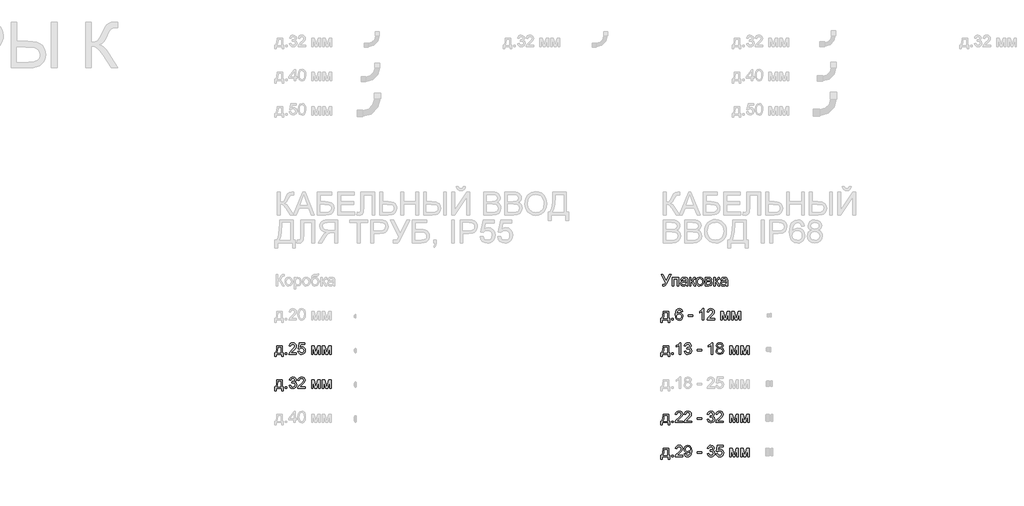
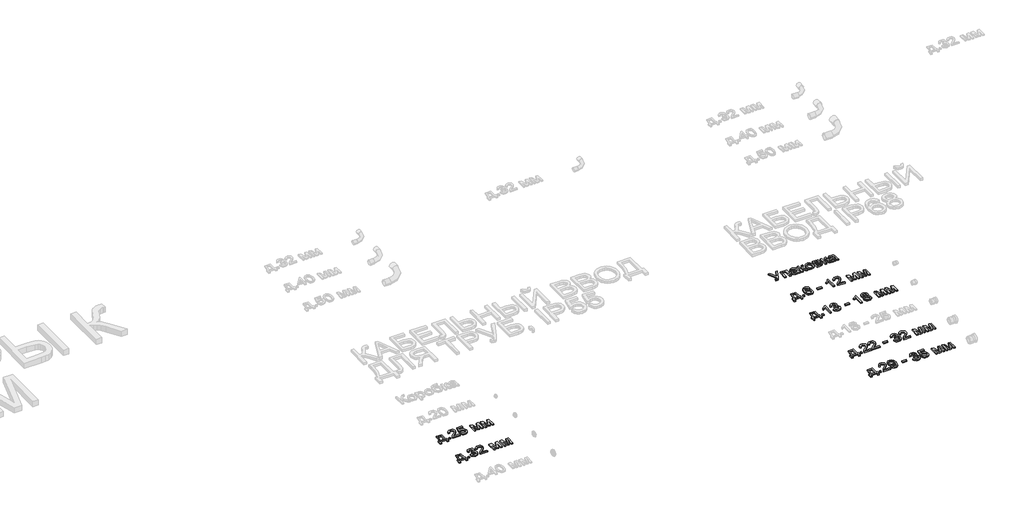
# One storey, part 53 of 98: 7 proxies.
"""IFC4 building model written with IfcOpenShell, lengths in millimetres."""

from ifc_helpers import new_model, si_unit, origin, origin_with_axes, place, context, project, spatial, polyline, outline, extrude, element, save

model = new_model("IFC4")

# Units and contexts
model_context = context("Model", 3, world=origin())
ifc_project = project(units=[si_unit("LENGTHUNIT", "METRE", prefix="MILLI")], contexts=[model_context])

# Site, building, storey
site = spatial("IfcSite", under=ifc_project)
building = spatial("IfcBuilding", under=site)
storey = spatial("IfcBuildingStorey", under=building, Name="Этаж 01", Elevation=0.0)

# Proxies
placement = place(None, origin())
element("IfcBuildingElementProxy", 1, Name="100", ObjectType="100", at=placement, inside=storey, context=model_context, shape_type="SweptSolid", body=[
    extrude(outline(polyline([(-29.8143916, -24585.7395637), (17.2745038, -24585.7395637), (17.2745038, -24646.9551277), (26.6922829, -24646.9551277), (26.6922829, -24679.9173545), (14.1352441, -24679.9173545), (14.1352441, -24659.5121665), (-37.6625408, -24659.5121665), (-37.6625408, -24679.9173545), (-50.2195796, -24679.9173545), (-50.2195796, -24646.9551277), (-42.3714303, -24646.9551277), (-32.6716084, -24623.0060098), (-29.8143916, -24585.7395637)]), holes=[polyline([(-18.8269827, -24598.2966025), (-21.7700386, -24626.905559), (-28.2447617, -24646.9551277), (4.717465, -24646.9551277), (4.717465, -24598.2966025), (-18.8269827, -24598.2966025)])]), origin_with_axes(), (0.0, 0.0, 1.0), 10.0),
    extrude(outline(polyline([(43.9582112, -24659.5121665), (43.9582112, -24646.9551277), (56.51525, -24646.9551277), (56.51525, -24659.5121665), (43.9582112, -24659.5121665)])), origin_with_axes(), (0.0, 0.0, 1.0), 10.0),
    extrude(outline(polyline([(141.2752616, -24646.9551277), (141.2752616, -24659.5121665), (75.3508081, -24659.5121665), (76.6997088, -24650.8546768), (84.3271288, -24637.5250859), (100.0479527, -24622.9692216), (121.728465, -24602.0489988), (127.148593, -24587.8242283), (122.0350333, -24576.3095219), (108.6809169, -24571.6128951), (94.7627147, -24576.1991573), (89.4774767, -24588.8788234), (76.920438, -24587.3091935), (79.9646615, -24575.1629563), (86.5466835, -24566.2908689), (96.3231475, -24560.8646095), (108.950697, -24559.0558563), (121.670217, -24561.0669445), (131.4282869, -24567.1002093), (137.6362956, -24576.1133182), (139.7056318, -24587.0639389), (137.4738144, -24598.9710528), (130.0548608, -24611.2828369), (112.0654312, -24628.4874515), (97.6199315, -24640.5662437), (91.9545488, -24646.9551277), (141.2752616, -24646.9551277)])), origin_with_axes(), (0.0, 0.0, 1.0), 10.0),
    extrude(outline(polyline([(153.8323004, -24632.8284591), (166.3893392, -24631.2588292), (172.7169095, -24644.1960127), (185.838034, -24648.5247575), (194.8388801, -24647.019507), (201.5833834, -24642.5037555), (205.7956322, -24635.4986692), (207.1997152, -24626.5254142), (201.9390026, -24611.6139307), (195.3324552, -24607.5120464), (186.0342377, -24606.1447517), (175.0100406, -24608.3275182), (167.958969, -24613.9929009), (155.4019303, -24612.4232711), (166.3893392, -24560.6254862), (215.0478644, -24560.6254862), (215.0478644, -24573.1825249), (176.5428822, -24573.1825249), (171.1718051, -24600.847251), (180.1419944, -24595.4025974), (189.5413794, -24593.5877129), (201.2737494, -24595.8379245), (211.0134252, -24602.5885591), (217.5709218, -24612.8769922), (219.7567539, -24625.7405993), (217.7885853, -24638.2976381), (211.8840793, -24649.0397923), (200.5778393, -24658.0712953), (185.7889831, -24661.0817963), (173.4557392, -24659.1473501), (163.6302242, -24653.3440117), (156.894918, -24644.3462312), (153.8323004, -24632.8284591)])), origin_with_axes(), (0.0, 0.0, 1.0), 10.0),
    extrude(outline(polyline([(273.1241687, -24585.7395637), (294.7311046, -24585.7395637), (311.3838962, -24644.7968867), (329.3365376, -24585.7395637), (350.0360312, -24585.7395637), (350.0360312, -24659.5121665), (337.4789924, -24659.5121665), (337.4789924, -24600.111487), (319.4282492, -24659.5121665), (302.9471358, -24659.5121665), (285.6812075, -24597.2665329), (285.6812075, -24659.5121665), (273.1241687, -24659.5121665), (273.1241687, -24585.7395637)])), origin_with_axes(), (0.0, 0.0, 1.0), 10.0),
    extrude(outline(polyline([(368.8715893, -24585.7395637), (390.4785252, -24585.7395637), (407.1313168, -24644.7968867), (425.0839582, -24585.7395637), (445.7834518, -24585.7395637), (445.7834518, -24659.5121665), (433.226413, -24659.5121665), (433.226413, -24600.111487), (415.1756698, -24659.5121665), (398.6945564, -24659.5121665), (381.4286281, -24597.2665329), (381.4286281, -24659.5121665), (368.8715893, -24659.5121665), (368.8715893, -24585.7395637)])), origin_with_axes(), (0.0, 0.0, 1.0), 10.0),
])
element("IfcBuildingElementProxy", 2, Name="100", ObjectType="100", at=placement, inside=storey, context=model_context, shape_type="SweptSolid", body=[
    extrude(outline(polyline([(-29.8143916, -24885.7395637), (17.2745038, -24885.7395637), (17.2745038, -24946.9551277), (26.6922829, -24946.9551277), (26.6922829, -24979.9173545), (14.1352441, -24979.9173545), (14.1352441, -24959.5121665), (-37.6625408, -24959.5121665), (-37.6625408, -24979.9173545), (-50.2195796, -24979.9173545), (-50.2195796, -24946.9551277), (-42.3714303, -24946.9551277), (-32.6716084, -24923.0060098), (-29.8143916, -24885.7395637)]), holes=[polyline([(-18.8269827, -24898.2966025), (-21.7700386, -24926.905559), (-28.2447617, -24946.9551277), (4.717465, -24946.9551277), (4.717465, -24898.2966025), (-18.8269827, -24898.2966025)])]), origin_with_axes(), (0.0, 0.0, 1.0), 10.0),
    extrude(outline(polyline([(43.9582112, -24959.5121665), (43.9582112, -24946.9551277), (56.51525, -24946.9551277), (56.51525, -24959.5121665), (43.9582112, -24959.5121665)])), origin_with_axes(), (0.0, 0.0, 1.0), 10.0),
    extrude(outline(polyline([(76.920438, -24932.8284591), (89.4774767, -24931.2588292), (96.405921, -24944.4780556), (109.3676299, -24948.5247575), (117.9760686, -24947.1329373), (124.62247, -24942.9574767), (130.2878527, -24929.1741646), (124.6715209, -24916.1879302), (110.3976995, -24911.049845), (101.5930571, -24912.4232711), (102.9910087, -24899.8662323), (105.0020969, -24900.0133851), (119.2513929, -24896.4081416), (123.9970706, -24891.8341421), (125.5789632, -24885.3226308), (120.992701, -24875.5001815), (109.1714262, -24871.6128951), (97.2029986, -24875.5369697), (91.0471066, -24887.3091935), (78.4900678, -24885.7395637), (82.1872819, -24874.4639805), (88.7662382, -24866.0456142), (97.7670843, -24860.8032958), (108.7299678, -24859.0558563), (123.8744433, -24862.5016843), (134.4694447, -24871.9194634), (138.136002, -24884.5868668), (134.6533857, -24896.1628869), (124.3526899, -24904.47702), (138.0379001, -24913.0609332), (142.8448915, -24929.3948938), (140.4413958, -24941.6331015), (133.2309087, -24951.860221), (122.347733, -24958.7764025), (108.9261715, -24961.0817963), (96.7860657, -24959.1136276), (86.9023028, -24953.2091216), (80.0290408, -24944.1776186), (76.920438, -24932.8284591)])), origin_with_axes(), (0.0, 0.0, 1.0), 10.0),
    extrude(outline(polyline([(218.1871241, -24946.9551277), (218.1871241, -24959.5121665), (152.2626706, -24959.5121665), (153.6115712, -24950.8546768), (161.2389912, -24937.5250859), (176.9598152, -24922.9692216), (198.6403274, -24902.0489988), (204.0604555, -24887.8242283), (198.9468958, -24876.3095219), (185.5927793, -24871.6128951), (171.6745772, -24876.1991573), (166.3893392, -24888.8788234), (153.8323004, -24887.3091935), (156.8765239, -24875.1629563), (163.458546, -24866.2908689), (173.23501, -24860.8646095), (185.8625595, -24859.0558563), (198.5820794, -24861.0669445), (208.3401494, -24867.1002093), (214.548158, -24876.1133182), (216.6174943, -24887.0639389), (214.3856768, -24898.9710528), (206.9667232, -24911.2828369), (188.9772937, -24928.4874515), (174.531794, -24940.5662437), (168.8664113, -24946.9551277), (218.1871241, -24946.9551277)])), origin_with_axes(), (0.0, 0.0, 1.0), 10.0),
    extrude(outline(polyline([(273.1241687, -24885.7395637), (294.7311046, -24885.7395637), (311.3838962, -24944.7968867), (329.3365376, -24885.7395637), (350.0360312, -24885.7395637), (350.0360312, -24959.5121665), (337.4789924, -24959.5121665), (337.4789924, -24900.111487), (319.4282492, -24959.5121665), (302.9471358, -24959.5121665), (285.6812075, -24897.2665329), (285.6812075, -24959.5121665), (273.1241687, -24959.5121665), (273.1241687, -24885.7395637)])), origin_with_axes(), (0.0, 0.0, 1.0), 10.0),
    extrude(outline(polyline([(368.8715893, -24885.7395637), (390.4785252, -24885.7395637), (407.1313168, -24944.7968867), (425.0839582, -24885.7395637), (445.7834518, -24885.7395637), (445.7834518, -24959.5121665), (433.226413, -24959.5121665), (433.226413, -24900.111487), (415.1756698, -24959.5121665), (398.6945564, -24959.5121665), (381.4286281, -24897.2665329), (381.4286281, -24959.5121665), (368.8715893, -24959.5121665), (368.8715893, -24885.7395637)])), origin_with_axes(), (0.0, 0.0, 1.0), 10.0),
])
element("IfcBuildingElementProxy", 3, Name="100", ObjectType="100", at=placement, inside=storey, context=model_context, shape_type="SweptSolid", body=[
    extrude(outline(polyline([(3340.1437998, -23959.0558563), (3354.0497392, -23959.0558563), (3384.0934355, -24018.5546377), (3411.1204994, -23959.0558563), (3424.9038115, -23959.0558563), (3386.7667113, -24037.3166194), (3376.3924391, -24056.544585), (3364.7918935, -24061.0817963), (3353.4856535, -24059.5121665), (3353.4856535, -24048.5247575), (3363.3694164, -24048.5247575), (3370.7025309, -24045.7288544), (3377.496085, -24033.0001373), (3340.1437998, -23959.0558563)])), origin_with_axes(), (0.0, 0.0, 1.0), 10.0),
    extrude(outline(polyline([(3435.1064055, -23985.7395637), (3491.61308, -23985.7395637), (3491.61308, -24059.5121665), (3479.0560412, -24059.5121665), (3479.0560412, -23998.2966025), (3447.6634443, -23998.2966025), (3447.6634443, -24059.5121665), (3435.1064055, -24059.5121665), (3435.1064055, -23985.7395637)])), origin_with_axes(), (0.0, 0.0, 1.0), 10.0),
    extrude(outline(polyline([(3557.5375335, -24050.0943874), (3545.3606394, -24058.6047242), (3531.9084212, -24061.0817963), (3521.4145872, -24059.5918742), (3513.6737369, -24055.122108), (3508.900468, -24048.3346852), (3507.3093784, -24039.8917934), (3509.7128741, -24029.9589795), (3516.0281817, -24022.7484924), (3524.8205614, -24018.6282141), (3535.685343, -24016.7397532), (3557.4639571, -24012.4232711), (3557.5375335, -24009.6273679), (3554.0794427, -24000.3567416), (3540.1980288, -23996.7269726), (3527.4938372, -23999.142731), (3521.436047, -24007.7143815), (3508.8790083, -24006.1447517), (3514.3113991, -23993.8820185), (3525.249757, -23986.6960569), (3541.8167096, -23984.1699338), (3557.0347614, -23986.4017513), (3565.6309374, -23992.0058203), (3569.4814356, -24000.5284199), (3570.0945723, -24011.5158288), (3570.0945723, -24027.1385509), (3570.7322344, -24048.9539532), (3573.233832, -24059.5121665), (3560.6767932, -24059.5121665), (3557.5375335, -24050.0943874)]), holes=[polyline([(3557.5375335, -24024.9803098), (3537.2794983, -24028.8308081), (3526.4760304, -24030.8664218), (3521.5831998, -24034.1773597), (3519.8664172, -24039.0088766), (3523.6065508, -24045.8024308), (3534.581697, -24048.5247575), (3547.2858886, -24045.5203879), (3555.4773943, -24038.2485871), (3557.4639571, -24028.5365025), (3557.5375335, -24024.9803098)])]), origin_with_axes(), (0.0, 0.0, 1.0), 10.0),
    extrude(outline(polyline([(3587.3605006, -23985.7395637), (3599.9175393, -23985.7395637), (3599.9175393, -24017.1321606), (3608.3297743, -24014.8758177), (3615.2214303, -24001.7301677), (3620.9481267, -23990.3871396), (3626.0003728, -23986.6960569), (3635.1851599, -23985.7395637), (3637.5886556, -23985.7395637), (3637.5886556, -23998.3701789), (3634.2041413, -23998.2966025), (3628.0727747, -23999.6209776), (3623.7562926, -24007.8860598), (3618.6917838, -24016.8255923), (3611.5916613, -24021.203388), (3619.5133869, -24026.0900872), (3627.2879598, -24036.3846517), (3640.7279153, -24059.5121665), (3626.4540939, -24059.5121665), (3613.2839185, -24036.875161), (3606.6620426, -24027.2979664), (3599.9175393, -24024.9803098), (3599.9175393, -24059.5121665), (3587.3605006, -24059.5121665), (3587.3605006, -23985.7395637)])), origin_with_axes(), (0.0, 0.0, 1.0), 10.0),
    extrude(outline(polyline([(3645.4368049, -24022.6258651), (3648.1530003, -24004.8387706), (3656.3015865, -23992.3369141), (3666.3692904, -23986.2116789), (3678.4235571, -23984.1699338), (3691.6151923, -23986.656203), (3702.1519458, -23994.1150104), (3709.0589303, -24005.957745), (3711.3612584, -24021.5957955), (3707.290031, -24043.9384953), (3695.431968, -24056.5813732), (3678.4235571, -24061.0817963), (3665.0725064, -24058.6047242), (3654.5480156, -24051.1735079), (3647.7146076, -24039.082453), (3645.4368049, -24022.6258651)]), holes=[polyline([(3657.9938436, -24022.6013396), (3659.4469775, -24033.9658276), (3663.8063792, -24042.0622972), (3670.3669414, -24046.9091424), (3678.4235571, -24048.5247575), (3686.4433846, -24046.8999454), (3692.9916841, -24042.025509), (3697.3510858, -24033.8217405), (3698.8042196, -24022.2089321), (3697.3418887, -24011.175538), (3692.9548959, -24003.189433), (3686.3973993, -23998.3425877), (3678.4235571, -23996.7269726), (3670.3669414, -23998.3364563), (3663.8063792, -24003.1649075), (3659.4469775, -24011.242983), (3657.9938436, -24022.6013396)])]), origin_with_axes(), (0.0, 0.0, 1.0), 10.0),
    extrude(outline(polyline([(3725.487927, -23985.7395637), (3753.1526531, -23985.7395637), (3768.321654, -23987.4195581), (3776.8565163, -23993.5754502), (3780.4249716, -24004.3053417), (3778.2667306, -24013.024145), (3771.767482, -24019.2413507), (3780.2042424, -24026.0471676), (3783.5642313, -24037.8807051), (3781.4366471, -24047.4517684), (3776.3782697, -24054.1901403), (3768.3707049, -24058.1816599), (3757.3955587, -24059.5121665), (3725.487927, -24059.5121665), (3725.487927, -23985.7395637)]), holes=[polyline([(3738.0449658, -24013.9929009), (3750.4548518, -24013.9929009), (3760.694234, -24013.3552388), (3765.6729036, -24010.8045903), (3767.8679329, -24006.1938026), (3764.0174346, -24000.0379106), (3750.8472592, -23998.2966025), (3738.0449658, -23998.2966025), (3738.0449658, -24013.9929009)]), polyline([(3738.0449658, -24046.9551277), (3753.4469587, -24046.9551277), (3767.1076434, -24044.6865221), (3771.0071926, -24036.8506356), (3768.8612143, -24030.8051081), (3763.2694079, -24027.2857037), (3752.2206853, -24026.5499397), (3738.0449658, -24026.5499397), (3738.0449658, -24046.9551277)])]), origin_with_axes(), (0.0, 0.0, 1.0), 10.0),
    extrude(outline(polyline([(3799.2605298, -23985.7395637), (3811.8175686, -23985.7395637), (3811.8175686, -24017.1321606), (3820.2298035, -24014.8758177), (3827.1214596, -24001.7301677), (3832.8481559, -23990.3871396), (3837.900402, -23986.6960569), (3847.0851892, -23985.7395637), (3849.4886849, -23985.7395637), (3849.4886849, -23998.3701789), (3846.1041705, -23998.2966025), (3839.9728039, -23999.6209776), (3835.6563218, -24007.8860598), (3830.591813, -24016.8255923), (3823.4916905, -24021.203388), (3831.4134162, -24026.0900872), (3839.187989, -24036.3846517), (3852.6279446, -24059.5121665), (3838.3541231, -24059.5121665), (3825.1839477, -24036.875161), (3818.5620718, -24027.2979664), (3811.8175686, -24024.9803098), (3811.8175686, -24059.5121665), (3799.2605298, -24059.5121665), (3799.2605298, -23985.7395637)])), origin_with_axes(), (0.0, 0.0, 1.0), 10.0),
    extrude(outline(polyline([(3907.5649892, -24050.0943874), (3895.3880951, -24058.6047242), (3881.9358768, -24061.0817963), (3871.4420429, -24059.5918742), (3863.7011926, -24055.122108), (3858.9279237, -24048.3346852), (3857.3368341, -24039.8917934), (3859.7403298, -24029.9589795), (3866.0556374, -24022.7484924), (3874.8480171, -24018.6282141), (3885.7127987, -24016.7397532), (3907.4914128, -24012.4232711), (3907.5649892, -24009.6273679), (3904.1068984, -24000.3567416), (3890.2254845, -23996.7269726), (3877.5212929, -23999.142731), (3871.4635027, -24007.7143815), (3858.9064639, -24006.1447517), (3864.3388547, -23993.8820185), (3875.2772127, -23986.6960569), (3891.8441652, -23984.1699338), (3907.0622171, -23986.4017513), (3915.6583931, -23992.0058203), (3919.5088913, -24000.5284199), (3920.1220279, -24011.5158288), (3920.1220279, -24027.1385509), (3920.7596901, -24048.9539532), (3923.2612876, -24059.5121665), (3910.7042489, -24059.5121665), (3907.5649892, -24050.0943874)]), holes=[polyline([(3907.5649892, -24024.9803098), (3887.306954, -24028.8308081), (3876.503486, -24030.8664218), (3871.6106555, -24034.1773597), (3869.8938729, -24039.0088766), (3873.6340065, -24045.8024308), (3884.6091527, -24048.5247575), (3897.3133442, -24045.5203879), (3905.50485, -24038.2485871), (3907.4914128, -24028.5365025), (3907.5649892, -24024.9803098)])]), origin_with_axes(), (0.0, 0.0, 1.0), 10.0),
])
element("IfcBuildingElementProxy", 4, Name="100", ObjectType="100", at=placement, inside=storey, context=model_context, shape_type="SweptSolid", body=[
    extrude(outline(polyline([(3356.6249132, -24285.7395637), (3403.7138086, -24285.7395637), (3403.7138086, -24346.9551277), (3413.1315876, -24346.9551277), (3413.1315876, -24379.9173545), (3400.5745489, -24379.9173545), (3400.5745489, -24359.5121665), (3348.776764, -24359.5121665), (3348.776764, -24379.9173545), (3336.2197252, -24379.9173545), (3336.2197252, -24346.9551277), (3344.0678744, -24346.9551277), (3353.7676964, -24323.0060098), (3356.6249132, -24285.7395637)]), holes=[polyline([(3367.6123221, -24298.2966025), (3364.6692662, -24326.905559), (3358.194543, -24346.9551277), (3391.1567698, -24346.9551277), (3391.1567698, -24298.2966025), (3367.6123221, -24298.2966025)])]), origin_with_axes(), (0.0, 0.0, 1.0), 10.0),
    extrude(outline(polyline([(3430.397516, -24359.5121665), (3430.397516, -24346.9551277), (3442.9545547, -24346.9551277), (3442.9545547, -24359.5121665), (3430.397516, -24359.5121665)])), origin_with_axes(), (0.0, 0.0, 1.0), 10.0),
    extrude(outline(polyline([(3527.7145664, -24285.7395637), (3515.1575276, -24287.3091935), (3510.3995872, -24276.8368194), (3497.8180229, -24271.6128951), (3486.4872575, -24274.6540529), (3477.915607, -24286.0706575), (3474.3471516, -24308.4501455), (3485.4203997, -24298.4314925), (3499.1423981, -24295.1573428), (3510.7429437, -24297.3952916), (3520.4795538, -24304.109138), (3527.0830357, -24314.3669143), (3529.2841963, -24327.2366527), (3525.1393924, -24344.5638947), (3513.7350506, -24356.8266279), (3497.2784627, -24361.0817963), (3483.0322324, -24358.2613677), (3471.6861385, -24349.8000818), (3464.2641193, -24334.8640728), (3461.7901129, -24312.6194748), (3464.5369651, -24287.6096305), (3472.7775218, -24270.5092491), (3484.0285795, -24261.9192045), (3498.6028379, -24259.0558563), (3509.6209036, -24260.8278213), (3518.4439401, -24266.1437161), (3524.6243577, -24274.5866079), (3527.7145664, -24285.7395637)]), holes=[polyline([(3474.3471516, -24327.040449), (3477.2534194, -24337.9174933), (3484.9789413, -24345.8146935), (3496.297444, -24348.5247575), (3504.583986, -24347.1206746), (3511.098563, -24342.9084257), (3515.3200089, -24336.2865498), (3516.7271575, -24327.6535857), (3515.338403, -24319.3670437), (3511.1721394, -24313.0486705), (3504.5471978, -24309.0479538), (3495.7824092, -24307.7143815), (3480.5888828, -24313.0486705), (3475.9075844, -24319.2137596), (3474.3471516, -24327.040449)])]), origin_with_axes(), (0.0, 0.0, 1.0), 10.0),
    extrude(outline(polyline([(3576.3730916, -24329.6891994), (3576.3730916, -24317.1321606), (3615.6138378, -24317.1321606), (3615.6138378, -24329.6891994), (3576.3730916, -24329.6891994)])), origin_with_axes(), (0.0, 0.0, 1.0), 10.0),
    extrude(outline(polyline([(3712.9308883, -24359.5121665), (3700.3738495, -24359.5121665), (3700.3738495, -24281.2268779), (3688.4789983, -24289.7004265), (3675.2597719, -24296.0402596), (3675.2597719, -24284.1699338), (3693.6661344, -24272.4222355), (3704.8374844, -24259.0558563), (3712.9308883, -24259.0558563), (3712.9308883, -24359.5121665)])), origin_with_axes(), (0.0, 0.0, 1.0), 10.0),
    extrude(outline(polyline([(3807.108679, -24346.9551277), (3807.108679, -24359.5121665), (3741.1842255, -24359.5121665), (3742.5331261, -24350.8546768), (3750.1605462, -24337.5250859), (3765.8813701, -24322.9692216), (3787.5618823, -24302.0489988), (3792.9820104, -24287.8242283), (3787.8684507, -24276.3095219), (3774.5143342, -24271.6128951), (3760.5961321, -24276.1991573), (3755.3108941, -24288.8788234), (3742.7538553, -24287.3091935), (3745.7980788, -24275.1629563), (3752.3801009, -24266.2908689), (3762.1565649, -24260.8646095), (3774.7841144, -24259.0558563), (3787.5036344, -24261.0669445), (3797.2617043, -24267.1002093), (3803.4697129, -24276.1133182), (3805.5390492, -24287.0639389), (3803.3072317, -24298.9710528), (3795.8882782, -24311.2828369), (3777.8988486, -24328.4874515), (3763.4533489, -24340.5662437), (3757.7879662, -24346.9551277), (3807.108679, -24346.9551277)])), origin_with_axes(), (0.0, 0.0, 1.0), 10.0),
    extrude(outline(polyline([(3862.0457236, -24285.7395637), (3883.6526595, -24285.7395637), (3900.3054511, -24344.7968867), (3918.2580925, -24285.7395637), (3938.9575861, -24285.7395637), (3938.9575861, -24359.5121665), (3926.4005473, -24359.5121665), (3926.4005473, -24300.111487), (3908.3498041, -24359.5121665), (3891.8686907, -24359.5121665), (3874.6027624, -24297.2665329), (3874.6027624, -24359.5121665), (3862.0457236, -24359.5121665), (3862.0457236, -24285.7395637)])), origin_with_axes(), (0.0, 0.0, 1.0), 10.0),
    extrude(outline(polyline([(3957.7931442, -24285.7395637), (3979.4000801, -24285.7395637), (3996.0528717, -24344.7968867), (4014.0055131, -24285.7395637), (4034.7050067, -24285.7395637), (4034.7050067, -24359.5121665), (4022.1479679, -24359.5121665), (4022.1479679, -24300.111487), (4004.0972247, -24359.5121665), (3987.6161113, -24359.5121665), (3970.350183, -24297.2665329), (3970.350183, -24359.5121665), (3957.7931442, -24359.5121665), (3957.7931442, -24285.7395637)])), origin_with_axes(), (0.0, 0.0, 1.0), 10.0),
])
element("IfcBuildingElementProxy", 5, Name="100", ObjectType="100", at=placement, inside=storey, context=model_context, shape_type="SweptSolid", body=[
    extrude(outline(polyline([(3356.6249132, -24585.7395637), (3403.7138086, -24585.7395637), (3403.7138086, -24646.9551277), (3413.1315876, -24646.9551277), (3413.1315876, -24679.9173545), (3400.5745489, -24679.9173545), (3400.5745489, -24659.5121665), (3348.776764, -24659.5121665), (3348.776764, -24679.9173545), (3336.2197252, -24679.9173545), (3336.2197252, -24646.9551277), (3344.0678744, -24646.9551277), (3353.7676964, -24623.0060098), (3356.6249132, -24585.7395637)]), holes=[polyline([(3367.6123221, -24598.2966025), (3364.6692662, -24626.905559), (3358.194543, -24646.9551277), (3391.1567698, -24646.9551277), (3391.1567698, -24598.2966025), (3367.6123221, -24598.2966025)])]), origin_with_axes(), (0.0, 0.0, 1.0), 10.0),
    extrude(outline(polyline([(3430.397516, -24659.5121665), (3430.397516, -24646.9551277), (3442.9545547, -24646.9551277), (3442.9545547, -24659.5121665), (3430.397516, -24659.5121665)])), origin_with_axes(), (0.0, 0.0, 1.0), 10.0),
    extrude(outline(polyline([(3510.4486381, -24659.5121665), (3497.8915993, -24659.5121665), (3497.8915993, -24581.2268779), (3485.9967482, -24589.7004265), (3472.7775218, -24596.0402596), (3472.7775218, -24584.1699338), (3491.1838843, -24572.4222355), (3502.3552342, -24559.0558563), (3510.4486381, -24559.0558563), (3510.4486381, -24659.5121665)])), origin_with_axes(), (0.0, 0.0, 1.0), 10.0),
    extrude(outline(polyline([(3540.2716052, -24632.8284591), (3552.828644, -24631.2588292), (3559.7570882, -24644.4780556), (3572.7187972, -24648.5247575), (3581.3272358, -24647.1329373), (3587.9736372, -24642.9574767), (3593.6390199, -24629.1741646), (3588.0226882, -24616.1879302), (3573.7488667, -24611.049845), (3564.9442243, -24612.4232711), (3566.3421759, -24599.8662323), (3568.3532641, -24600.0133851), (3582.6025601, -24596.4081416), (3587.3482378, -24591.8341421), (3588.9301304, -24585.3226308), (3584.3438682, -24575.5001815), (3572.5225934, -24571.6128951), (3560.5541658, -24575.5369697), (3554.3982738, -24587.3091935), (3541.841235, -24585.7395637), (3545.5384491, -24574.4639805), (3552.1174054, -24566.0456142), (3561.1182516, -24560.8032958), (3572.081135, -24559.0558563), (3587.2256105, -24562.5016843), (3597.820612, -24571.9194634), (3601.4871692, -24584.5868668), (3598.004553, -24596.1628869), (3587.7038571, -24604.47702), (3601.3890673, -24613.0609332), (3606.1960587, -24629.3948938), (3603.792563, -24641.6331015), (3596.5820759, -24651.860221), (3585.6989002, -24658.7764025), (3572.2773388, -24661.0817963), (3560.1372329, -24659.1136276), (3550.25347, -24653.2091216), (3543.380208, -24644.1776186), (3540.2716052, -24632.8284591)])), origin_with_axes(), (0.0, 0.0, 1.0), 10.0),
    extrude(outline(polyline([(3653.2849541, -24629.6891994), (3653.2849541, -24617.1321606), (3692.5257003, -24617.1321606), (3692.5257003, -24629.6891994), (3653.2849541, -24629.6891994)])), origin_with_axes(), (0.0, 0.0, 1.0), 10.0),
    extrude(outline(polyline([(3789.8427507, -24659.5121665), (3777.2857119, -24659.5121665), (3777.2857119, -24581.2268779), (3765.3908608, -24589.7004265), (3752.1716344, -24596.0402596), (3752.1716344, -24584.1699338), (3770.5779969, -24572.4222355), (3781.7493468, -24559.0558563), (3789.8427507, -24559.0558563), (3789.8427507, -24659.5121665)])), origin_with_axes(), (0.0, 0.0, 1.0), 10.0),
    extrude(outline(polyline([(3837.9617157, -24604.1827144), (3826.5205856, -24596.3836161), (3822.8049775, -24584.2435102), (3824.8283285, -24574.4271923), (3830.8983814, -24566.3153943), (3840.3345545, -24560.8707408), (3852.4562663, -24559.0558563), (3864.6515544, -24560.9136604), (3874.2103549, -24566.4870726), (3880.3907725, -24574.7276293), (3882.4509116, -24584.5868668), (3878.7843544, -24596.4204043), (3867.6620554, -24604.1827144), (3881.0161718, -24614.0296891), (3885.5901713, -24630.2778106), (3883.3215657, -24642.2830264), (3876.5157488, -24652.2035775), (3866.0065864, -24658.8622416), (3852.6279446, -24661.0817963), (3839.2493027, -24658.8530446), (3828.7401403, -24652.1667893), (3821.9343234, -24642.151202), (3819.6657178, -24629.934454), (3824.4236583, -24613.3061879), (3837.9617157, -24604.1827144)]), holes=[polyline([(3835.3620162, -24584.6113922), (3839.8133884, -24594.4706297), (3852.7750974, -24598.2966025), (3865.4792889, -24594.4951552), (3869.8938729, -24585.175478), (3865.3321361, -24575.524707), (3852.6279446, -24571.6128951), (3839.8869648, -24575.4388678), (3835.3620162, -24584.6113922)]), polyline([(3832.2227566, -24629.4929957), (3834.3196839, -24638.9475629), (3841.7386375, -24646.02316), (3852.7260464, -24648.5247575), (3861.2731714, -24647.2095794), (3867.6865809, -24643.264045), (3873.0331326, -24629.8854031), (3867.5149026, -24616.2492438), (3860.9543404, -24612.2025419), (3852.3091135, -24610.8536412), (3843.8815501, -24612.1841478), (3837.53252, -24616.1756674), (3832.2227566, -24629.4929957)])]), origin_with_axes(), (0.0, 0.0, 1.0), 10.0),
    extrude(outline(polyline([(3938.9575861, -24585.7395637), (3960.5645219, -24585.7395637), (3977.2173136, -24644.7968867), (3995.169955, -24585.7395637), (4015.8694485, -24585.7395637), (4015.8694485, -24659.5121665), (4003.3124098, -24659.5121665), (4003.3124098, -24600.111487), (3985.2616665, -24659.5121665), (3968.7805532, -24659.5121665), (3951.5146249, -24597.2665329), (3951.5146249, -24659.5121665), (3938.9575861, -24659.5121665), (3938.9575861, -24585.7395637)])), origin_with_axes(), (0.0, 0.0, 1.0), 10.0),
    extrude(outline(polyline([(4034.7050067, -24585.7395637), (4056.3119425, -24585.7395637), (4072.9647342, -24644.7968867), (4090.9173756, -24585.7395637), (4111.6168692, -24585.7395637), (4111.6168692, -24659.5121665), (4099.0598304, -24659.5121665), (4099.0598304, -24600.111487), (4081.0090872, -24659.5121665), (4064.5279738, -24659.5121665), (4047.2620455, -24597.2665329), (4047.2620455, -24659.5121665), (4034.7050067, -24659.5121665), (4034.7050067, -24585.7395637)])), origin_with_axes(), (0.0, 0.0, 1.0), 10.0),
])
element("IfcBuildingElementProxy", 6, Name="100", ObjectType="100", at=placement, inside=storey, context=model_context, shape_type="SweptSolid", body=[
    extrude(outline(polyline([(3356.6249132, -25485.7395637), (3403.7138086, -25485.7395637), (3403.7138086, -25546.9551277), (3413.1315876, -25546.9551277), (3413.1315876, -25579.9173545), (3400.5745489, -25579.9173545), (3400.5745489, -25559.5121665), (3348.776764, -25559.5121665), (3348.776764, -25579.9173545), (3336.2197252, -25579.9173545), (3336.2197252, -25546.9551277), (3344.0678744, -25546.9551277), (3353.7676964, -25523.0060098), (3356.6249132, -25485.7395637)]), holes=[polyline([(3367.6123221, -25498.2966025), (3364.6692662, -25526.905559), (3358.194543, -25546.9551277), (3391.1567698, -25546.9551277), (3391.1567698, -25498.2966025), (3367.6123221, -25498.2966025)])]), origin_with_axes(), (0.0, 0.0, 1.0), 10.0),
    extrude(outline(polyline([(3430.397516, -25559.5121665), (3430.397516, -25546.9551277), (3442.9545547, -25546.9551277), (3442.9545547, -25559.5121665), (3430.397516, -25559.5121665)])), origin_with_axes(), (0.0, 0.0, 1.0), 10.0),
    extrude(outline(polyline([(3527.7145664, -25546.9551277), (3527.7145664, -25559.5121665), (3461.7901129, -25559.5121665), (3463.1390135, -25550.8546768), (3470.7664336, -25537.5250859), (3486.4872575, -25522.9692216), (3508.1677697, -25502.0489988), (3513.5878978, -25487.8242283), (3508.4743381, -25476.3095219), (3495.1202216, -25471.6128951), (3481.2020195, -25476.1991573), (3475.9167815, -25488.8788234), (3463.3597427, -25487.3091935), (3466.4039662, -25475.1629563), (3472.9859883, -25466.2908689), (3482.7624523, -25460.8646095), (3495.3900018, -25459.0558563), (3508.1095218, -25461.0669445), (3517.8675917, -25467.1002093), (3524.0756003, -25476.1133182), (3526.1449366, -25487.0639389), (3523.9131191, -25498.9710528), (3516.4941656, -25511.2828369), (3498.504736, -25528.4874515), (3484.0592363, -25540.5662437), (3478.3938536, -25546.9551277), (3527.7145664, -25546.9551277)])), origin_with_axes(), (0.0, 0.0, 1.0), 10.0),
    extrude(outline(polyline([(3541.841235, -25534.3980889), (3554.3982738, -25532.8284591), (3560.0391311, -25544.8091494), (3570.7322344, -25548.5247575), (3580.8980402, -25546.1335246), (3587.7896962, -25539.7446406), (3591.8977118, -25528.8308081), (3593.7125963, -25514.2626811), (3593.6390199, -25511.8101344), (3583.5958415, -25521.3260154), (3569.8247921, -25524.9803098), (3558.374465, -25522.7484924), (3548.8432557, -25516.0530401), (3542.4145178, -25505.7094247), (3540.2716052, -25492.5331179), (3542.518751, -25478.921484), (3549.2601886, -25468.2529062), (3559.3861405, -25461.3551188), (3571.7868294, -25459.0558563), (3589.6781571, -25464.3043061), (3601.9899412, -25479.2648406), (3606.1960587, -25507.371025), (3602.002204, -25537.8684424), (3596.7874767, -25547.8595043), (3589.5310043, -25555.1466334), (3580.5454866, -25559.5980056), (3570.1436232, -25561.0817963), (3559.4076003, -25559.3312911), (3550.8420812, -25554.0797757), (3544.851736, -25545.6583437), (3541.841235, -25534.3980889)]), holes=[polyline([(3593.6390199, -25492.2388123), (3592.2839879, -25483.7284755), (3588.2188919, -25477.1801759), (3581.9097157, -25473.0047153), (3573.8224431, -25471.6128951), (3565.4347337, -25473.1120142), (3558.7147559, -25477.6093716), (3554.3001719, -25484.4918306), (3552.828644, -25493.1462545), (3554.2204642, -25500.9054989), (3558.3959248, -25507.0644567), (3564.9503557, -25511.0835675), (3573.4790866, -25512.4232711), (3587.9613745, -25507.0644567), (3592.2196086, -25500.6786384), (3593.6390199, -25492.2388123)])]), origin_with_axes(), (0.0, 0.0, 1.0), 10.0),
    extrude(outline(polyline([(3653.2849541, -25529.6891994), (3653.2849541, -25517.1321606), (3692.5257003, -25517.1321606), (3692.5257003, -25529.6891994), (3653.2849541, -25529.6891994)])), origin_with_axes(), (0.0, 0.0, 1.0), 10.0),
    extrude(outline(polyline([(3742.7538553, -25532.8284591), (3755.3108941, -25531.2588292), (3762.2393383, -25544.4780556), (3775.2010473, -25548.5247575), (3783.809486, -25547.1329373), (3790.4558874, -25542.9574767), (3796.1212701, -25529.1741646), (3790.5049383, -25516.1879302), (3776.2311169, -25511.049845), (3767.4264745, -25512.4232711), (3768.8244261, -25499.8662323), (3770.8355143, -25500.0133851), (3785.0848102, -25496.4081416), (3789.830488, -25491.8341421), (3791.4123806, -25485.3226308), (3786.8261183, -25475.5001815), (3775.0048436, -25471.6128951), (3763.036416, -25475.5369697), (3756.8805239, -25487.3091935), (3744.3234852, -25485.7395637), (3748.0206992, -25474.4639805), (3754.5996556, -25466.0456142), (3763.6005017, -25460.8032958), (3774.5633852, -25459.0558563), (3789.7078606, -25462.5016843), (3800.3028621, -25471.9194634), (3803.9694193, -25484.5868668), (3800.4868031, -25496.1628869), (3790.1861072, -25504.47702), (3803.8713175, -25513.0609332), (3808.6783089, -25529.3948938), (3806.2748132, -25541.6331015), (3799.0643261, -25551.860221), (3788.1811504, -25558.7764025), (3774.7595889, -25561.0817963), (3762.6194831, -25559.1136276), (3752.7357201, -25553.2091216), (3745.8624582, -25544.1776186), (3742.7538553, -25532.8284591)])), origin_with_axes(), (0.0, 0.0, 1.0), 10.0),
    extrude(outline(polyline([(3819.6657178, -25532.8284591), (3832.2227566, -25531.2588292), (3838.5503269, -25544.1960127), (3851.6714514, -25548.5247575), (3860.6722975, -25547.019507), (3867.4168008, -25542.5037555), (3871.6290496, -25535.4986692), (3873.0331326, -25526.5254142), (3867.77242, -25511.6139307), (3861.1658725, -25507.5120464), (3851.8676551, -25506.1447517), (3840.843458, -25508.3275182), (3833.7923864, -25513.9929009), (3821.2353476, -25512.4232711), (3832.2227566, -25460.6254862), (3880.8812818, -25460.6254862), (3880.8812818, -25473.1825249), (3842.3762996, -25473.1825249), (3837.0052225, -25500.847251), (3845.9754118, -25495.4025974), (3855.3747968, -25493.5877129), (3867.1071667, -25495.8379245), (3876.8468426, -25502.5885591), (3883.4043391, -25512.8769922), (3885.5901713, -25525.7405993), (3883.6220026, -25538.2976381), (3877.7174966, -25549.0397923), (3866.4112566, -25558.0712953), (3851.6224004, -25561.0817963), (3839.2891565, -25559.1473501), (3829.4636416, -25553.3440117), (3822.7283354, -25544.3462312), (3819.6657178, -25532.8284591)])), origin_with_axes(), (0.0, 0.0, 1.0), 10.0),
    extrude(outline(polyline([(3938.9575861, -25485.7395637), (3960.5645219, -25485.7395637), (3977.2173136, -25544.7968867), (3995.169955, -25485.7395637), (4015.8694485, -25485.7395637), (4015.8694485, -25559.5121665), (4003.3124098, -25559.5121665), (4003.3124098, -25500.111487), (3985.2616665, -25559.5121665), (3968.7805532, -25559.5121665), (3951.5146249, -25497.2665329), (3951.5146249, -25559.5121665), (3938.9575861, -25559.5121665), (3938.9575861, -25485.7395637)])), origin_with_axes(), (0.0, 0.0, 1.0), 10.0),
    extrude(outline(polyline([(4034.7050067, -25485.7395637), (4056.3119425, -25485.7395637), (4072.9647342, -25544.7968867), (4090.9173756, -25485.7395637), (4111.6168692, -25485.7395637), (4111.6168692, -25559.5121665), (4099.0598304, -25559.5121665), (4099.0598304, -25500.111487), (4081.0090872, -25559.5121665), (4064.5279738, -25559.5121665), (4047.2620455, -25497.2665329), (4047.2620455, -25559.5121665), (4034.7050067, -25559.5121665), (4034.7050067, -25485.7395637)])), origin_with_axes(), (0.0, 0.0, 1.0), 10.0),
])
element("IfcBuildingElementProxy", 7, Name="100", ObjectType="100", at=placement, inside=storey, context=model_context, shape_type="SweptSolid", body=[
    extrude(outline(polyline([(3356.6249132, -25185.7395637), (3403.7138086, -25185.7395637), (3403.7138086, -25246.9551277), (3413.1315876, -25246.9551277), (3413.1315876, -25279.9173545), (3400.5745489, -25279.9173545), (3400.5745489, -25259.5121665), (3348.776764, -25259.5121665), (3348.776764, -25279.9173545), (3336.2197252, -25279.9173545), (3336.2197252, -25246.9551277), (3344.0678744, -25246.9551277), (3353.7676964, -25223.0060098), (3356.6249132, -25185.7395637)]), holes=[polyline([(3367.6123221, -25198.2966025), (3364.6692662, -25226.905559), (3358.194543, -25246.9551277), (3391.1567698, -25246.9551277), (3391.1567698, -25198.2966025), (3367.6123221, -25198.2966025)])]), origin_with_axes(), (0.0, 0.0, 1.0), 10.0),
    extrude(outline(polyline([(3430.397516, -25259.5121665), (3430.397516, -25246.9551277), (3442.9545547, -25246.9551277), (3442.9545547, -25259.5121665), (3430.397516, -25259.5121665)])), origin_with_axes(), (0.0, 0.0, 1.0), 10.0),
    extrude(outline(polyline([(3527.7145664, -25246.9551277), (3527.7145664, -25259.5121665), (3461.7901129, -25259.5121665), (3463.1390135, -25250.8546768), (3470.7664336, -25237.5250859), (3486.4872575, -25222.9692216), (3508.1677697, -25202.0489988), (3513.5878978, -25187.8242283), (3508.4743381, -25176.3095219), (3495.1202216, -25171.6128951), (3481.2020195, -25176.1991573), (3475.9167815, -25188.8788234), (3463.3597427, -25187.3091935), (3466.4039662, -25175.1629563), (3472.9859883, -25166.2908689), (3482.7624523, -25160.8646095), (3495.3900018, -25159.0558563), (3508.1095218, -25161.0669445), (3517.8675917, -25167.1002093), (3524.0756003, -25176.1133182), (3526.1449366, -25187.0639389), (3523.9131191, -25198.9710528), (3516.4941656, -25211.2828369), (3498.504736, -25228.4874515), (3484.0592363, -25240.5662437), (3478.3938536, -25246.9551277), (3527.7145664, -25246.9551277)])), origin_with_axes(), (0.0, 0.0, 1.0), 10.0),
    extrude(outline(polyline([(3604.6264289, -25246.9551277), (3604.6264289, -25259.5121665), (3538.7019753, -25259.5121665), (3540.050876, -25250.8546768), (3547.678296, -25237.5250859), (3563.3991199, -25222.9692216), (3585.0796322, -25202.0489988), (3590.4997603, -25187.8242283), (3585.3862005, -25176.3095219), (3572.0320841, -25171.6128951), (3558.1138819, -25176.1991573), (3552.828644, -25188.8788234), (3540.2716052, -25187.3091935), (3543.3158287, -25175.1629563), (3549.8978507, -25166.2908689), (3559.6743147, -25160.8646095), (3572.3018642, -25159.0558563), (3585.0213842, -25161.0669445), (3594.7794541, -25167.1002093), (3600.9874628, -25176.1133182), (3603.056799, -25187.0639389), (3600.8249816, -25198.9710528), (3593.406028, -25211.2828369), (3575.4165985, -25228.4874515), (3560.9710988, -25240.5662437), (3555.3057161, -25246.9551277), (3604.6264289, -25246.9551277)])), origin_with_axes(), (0.0, 0.0, 1.0), 10.0),
    extrude(outline(polyline([(3653.2849541, -25229.6891994), (3653.2849541, -25217.1321606), (3692.5257003, -25217.1321606), (3692.5257003, -25229.6891994), (3653.2849541, -25229.6891994)])), origin_with_axes(), (0.0, 0.0, 1.0), 10.0),
    extrude(outline(polyline([(3742.7538553, -25232.8284591), (3755.3108941, -25231.2588292), (3762.2393383, -25244.4780556), (3775.2010473, -25248.5247575), (3783.809486, -25247.1329373), (3790.4558874, -25242.9574767), (3796.1212701, -25229.1741646), (3790.5049383, -25216.1879302), (3776.2311169, -25211.049845), (3767.4264745, -25212.4232711), (3768.8244261, -25199.8662323), (3770.8355143, -25200.0133851), (3785.0848102, -25196.4081416), (3789.830488, -25191.8341421), (3791.4123806, -25185.3226308), (3786.8261183, -25175.5001815), (3775.0048436, -25171.6128951), (3763.036416, -25175.5369697), (3756.8805239, -25187.3091935), (3744.3234852, -25185.7395637), (3748.0206992, -25174.4639805), (3754.5996556, -25166.0456142), (3763.6005017, -25160.8032958), (3774.5633852, -25159.0558563), (3789.7078606, -25162.5016843), (3800.3028621, -25171.9194634), (3803.9694193, -25184.5868668), (3800.4868031, -25196.1628869), (3790.1861072, -25204.47702), (3803.8713175, -25213.0609332), (3808.6783089, -25229.3948938), (3806.2748132, -25241.6331015), (3799.0643261, -25251.860221), (3788.1811504, -25258.7764025), (3774.7595889, -25261.0817963), (3762.6194831, -25259.1136276), (3752.7357201, -25253.2091216), (3745.8624582, -25244.1776186), (3742.7538553, -25232.8284591)])), origin_with_axes(), (0.0, 0.0, 1.0), 10.0),
    extrude(outline(polyline([(3884.0205415, -25246.9551277), (3884.0205415, -25259.5121665), (3818.0960879, -25259.5121665), (3819.4449886, -25250.8546768), (3827.0724086, -25237.5250859), (3842.7932325, -25222.9692216), (3864.4737448, -25202.0489988), (3869.8938729, -25187.8242283), (3864.7803131, -25176.3095219), (3851.4261967, -25171.6128951), (3837.5079946, -25176.1991573), (3832.2227566, -25188.8788234), (3819.6657178, -25187.3091935), (3822.7099413, -25175.1629563), (3829.2919633, -25166.2908689), (3839.0684273, -25160.8646095), (3851.6959768, -25159.0558563), (3864.4154968, -25161.0669445), (3874.1735667, -25167.1002093), (3880.3815754, -25176.1133182), (3882.4509116, -25187.0639389), (3880.2190942, -25198.9710528), (3872.8001406, -25211.2828369), (3854.8107111, -25228.4874515), (3840.3652114, -25240.5662437), (3834.6998287, -25246.9551277), (3884.0205415, -25246.9551277)])), origin_with_axes(), (0.0, 0.0, 1.0), 10.0),
    extrude(outline(polyline([(3938.9575861, -25185.7395637), (3960.5645219, -25185.7395637), (3977.2173136, -25244.7968867), (3995.169955, -25185.7395637), (4015.8694485, -25185.7395637), (4015.8694485, -25259.5121665), (4003.3124098, -25259.5121665), (4003.3124098, -25200.111487), (3985.2616665, -25259.5121665), (3968.7805532, -25259.5121665), (3951.5146249, -25197.2665329), (3951.5146249, -25259.5121665), (3938.9575861, -25259.5121665), (3938.9575861, -25185.7395637)])), origin_with_axes(), (0.0, 0.0, 1.0), 10.0),
    extrude(outline(polyline([(4034.7050067, -25185.7395637), (4056.3119425, -25185.7395637), (4072.9647342, -25244.7968867), (4090.9173756, -25185.7395637), (4111.6168692, -25185.7395637), (4111.6168692, -25259.5121665), (4099.0598304, -25259.5121665), (4099.0598304, -25200.111487), (4081.0090872, -25259.5121665), (4064.5279738, -25259.5121665), (4047.2620455, -25197.2665329), (4047.2620455, -25259.5121665), (4034.7050067, -25259.5121665), (4034.7050067, -25185.7395637)])), origin_with_axes(), (0.0, 0.0, 1.0), 10.0),
])

save(model, "model.ifc")
